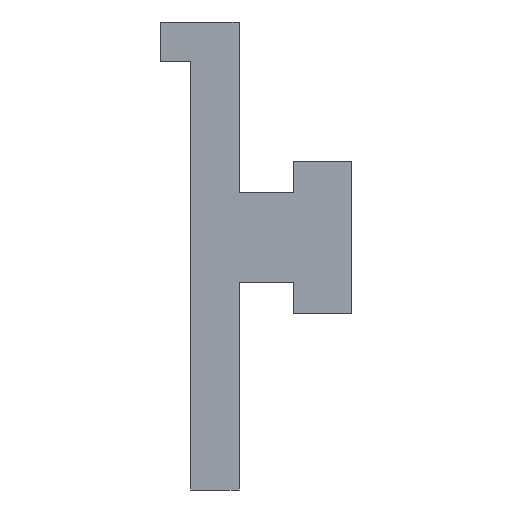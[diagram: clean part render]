
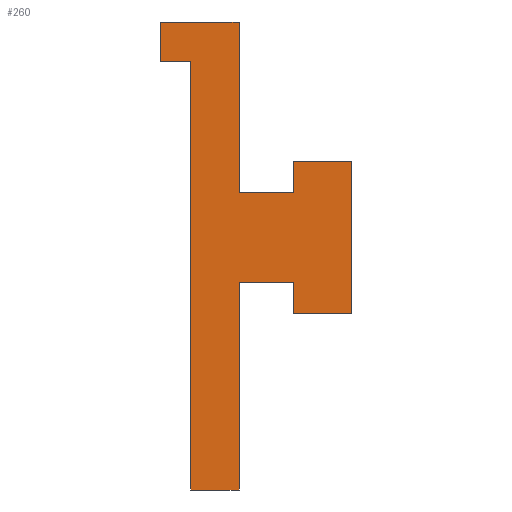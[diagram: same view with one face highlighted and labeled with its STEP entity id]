
A CAD part, left-side view. The second image highlights one B-rep face of the part: STEP entity #260.
In plain terms, the highlighted planar face has unit normal (-1, 0, 0).
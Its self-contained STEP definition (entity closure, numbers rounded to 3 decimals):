
#25 = AXIS2_PLACEMENT_3D ( 'NONE', #545, #307, #198 ) ;
#28 = CARTESIAN_POINT ( 'NONE',  ( 0., 7.332, 18.867 ) ) ;
#32 = CARTESIAN_POINT ( 'NONE',  ( 0., 4.632, 15.367 ) ) ;
#41 = ORIENTED_EDGE ( 'NONE', *, *, #463, .F. ) ;
#43 = ORIENTED_EDGE ( 'NONE', *, *, #590, .F. ) ;
#45 = EDGE_CURVE ( 'NONE', #342, #434, #737, .T. ) ;
#48 = VECTOR ( 'NONE', #393, 1000. ) ;
#63 = EDGE_CURVE ( 'NONE', #288, #749, #281, .T. ) ;
#66 = VERTEX_POINT ( 'NONE', #295 ) ;
#71 = ORIENTED_EDGE ( 'NONE', *, *, #272, .F. ) ;
#72 = LINE ( 'NONE', #251, #742 ) ;
#74 = ORIENTED_EDGE ( 'NONE', *, *, #221, .F. ) ;
#85 = CARTESIAN_POINT ( 'NONE',  ( 0., -9.668, 6.517 ) ) ;
#86 = CARTESIAN_POINT ( 'NONE',  ( 0., 0.332, 18.867 ) ) ;
#89 = EDGE_CURVE ( 'NONE', #373, #369, #517, .T. ) ;
#104 = ORIENTED_EDGE ( 'NONE', *, *, #719, .F. ) ;
#110 = VECTOR ( 'NONE', #327, 1000. ) ;
#113 = CARTESIAN_POINT ( 'NONE',  ( 0., 0.332, 3.767 ) ) ;
#115 = CARTESIAN_POINT ( 'NONE',  ( 0., -9.668, -6.983 ) ) ;
#117 = DIRECTION ( 'NONE',  ( 0., 1., 0. ) ) ;
#137 = PLANE ( 'NONE',  #25 ) ;
#140 = CARTESIAN_POINT ( 'NONE',  ( 0., 0.332, -4.233 ) ) ;
#155 = CARTESIAN_POINT ( 'NONE',  ( 0., -4.468, -4.233 ) ) ;
#157 = VERTEX_POINT ( 'NONE', #635 ) ;
#158 = CARTESIAN_POINT ( 'NONE',  ( 0., 7.332, 15.367 ) ) ;
#166 = CARTESIAN_POINT ( 'NONE',  ( 0., -9.668, 6.517 ) ) ;
#173 = VERTEX_POINT ( 'NONE', #113 ) ;
#179 = DIRECTION ( 'NONE',  ( 0., 1., 0. ) ) ;
#183 = EDGE_CURVE ( 'NONE', #487, #157, #415, .T. ) ;
#187 = DIRECTION ( 'NONE',  ( 0., -1., 0. ) ) ;
#192 = VERTEX_POINT ( 'NONE', #166 ) ;
#198 = DIRECTION ( 'NONE',  ( 0., 0., -1. ) ) ;
#204 = CARTESIAN_POINT ( 'NONE',  ( 0., 7.332, 15.367 ) ) ;
#211 = VECTOR ( 'NONE', #550, 1000. ) ;
#215 = ORIENTED_EDGE ( 'NONE', *, *, #183, .F. ) ;
#218 = CARTESIAN_POINT ( 'NONE',  ( 0., -4.468, 3.767 ) ) ;
#219 = ORIENTED_EDGE ( 'NONE', *, *, #417, .F. ) ;
#221 = EDGE_CURVE ( 'NONE', #336, #66, #246, .T. ) ;
#232 = CARTESIAN_POINT ( 'NONE',  ( 0., -9.668, -6.983 ) ) ;
#238 = DIRECTION ( 'NONE',  ( 0., 0., 1. ) ) ;
#246 = LINE ( 'NONE', #703, #421 ) ;
#248 = ORIENTED_EDGE ( 'NONE', *, *, #63, .F. ) ;
#251 = CARTESIAN_POINT ( 'NONE',  ( 0., 0.332, 3.767 ) ) ;
#255 = VECTOR ( 'NONE', #238, 1000. ) ;
#260 = ADVANCED_FACE ( 'NONE', ( #599 ), #137, .F. ) ;
#262 = CARTESIAN_POINT ( 'NONE',  ( 0., 0.332, -4.233 ) ) ;
#268 = VECTOR ( 'NONE', #362, 1000. ) ;
#272 = EDGE_CURVE ( 'NONE', #749, #487, #437, .T. ) ;
#275 = DIRECTION ( 'NONE',  ( 0., -1., 0. ) ) ;
#281 = LINE ( 'NONE', #629, #702 ) ;
#288 = VERTEX_POINT ( 'NONE', #155 ) ;
#290 = CARTESIAN_POINT ( 'NONE',  ( 0., 4.632, -22.633 ) ) ;
#295 = CARTESIAN_POINT ( 'NONE',  ( 0., 0.332, 18.867 ) ) ;
#303 = EDGE_CURVE ( 'NONE', #369, #336, #736, .T. ) ;
#307 = DIRECTION ( 'NONE',  ( 1., 0., 0. ) ) ;
#324 = DIRECTION ( 'NONE',  ( 0., 0., -1. ) ) ;
#327 = DIRECTION ( 'NONE',  ( 0., 0., 1. ) ) ;
#335 = EDGE_CURVE ( 'NONE', #66, #173, #616, .T. ) ;
#336 = VERTEX_POINT ( 'NONE', #28 ) ;
#342 = VERTEX_POINT ( 'NONE', #388 ) ;
#350 = CARTESIAN_POINT ( 'NONE',  ( 0., 0.332, -22.633 ) ) ;
#362 = DIRECTION ( 'NONE',  ( 0., 0., -1. ) ) ;
#369 = VERTEX_POINT ( 'NONE', #204 ) ;
#373 = VERTEX_POINT ( 'NONE', #32 ) ;
#388 = CARTESIAN_POINT ( 'NONE',  ( 0., -4.468, 3.767 ) ) ;
#393 = DIRECTION ( 'NONE',  ( 0., 0., 1. ) ) ;
#395 = VECTOR ( 'NONE', #117, 1000. ) ;
#397 = ORIENTED_EDGE ( 'NONE', *, *, #303, .F. ) ;
#415 = LINE ( 'NONE', #638, #395 ) ;
#417 = EDGE_CURVE ( 'NONE', #157, #373, #515, .T. ) ;
#421 = VECTOR ( 'NONE', #187, 1000. ) ;
#426 = EDGE_CURVE ( 'NONE', #573, #601, #755, .T. ) ;
#431 = CARTESIAN_POINT ( 'NONE',  ( 0., -4.468, 6.517 ) ) ;
#433 = VECTOR ( 'NONE', #324, 1000. ) ;
#434 = VERTEX_POINT ( 'NONE', #628 ) ;
#437 = LINE ( 'NONE', #140, #268 ) ;
#463 = EDGE_CURVE ( 'NONE', #192, #573, #722, .T. ) ;
#481 = DIRECTION ( 'NONE',  ( 0., -1., 0. ) ) ;
#487 = VERTEX_POINT ( 'NONE', #350 ) ;
#491 = LINE ( 'NONE', #431, #713 ) ;
#515 = LINE ( 'NONE', #290, #538 ) ;
#517 = LINE ( 'NONE', #527, #555 ) ;
#520 = DIRECTION ( 'NONE',  ( 0., 0., 1. ) ) ;
#527 = CARTESIAN_POINT ( 'NONE',  ( 0., 4.632, 15.367 ) ) ;
#538 = VECTOR ( 'NONE', #520, 1000. ) ;
#541 = ORIENTED_EDGE ( 'NONE', *, *, #426, .F. ) ;
#545 = CARTESIAN_POINT ( 'NONE',  ( 0., 0., 0. ) ) ;
#550 = DIRECTION ( 'NONE',  ( 0., 0., -1. ) ) ;
#555 = VECTOR ( 'NONE', #740, 1000. ) ;
#564 = ORIENTED_EDGE ( 'NONE', *, *, #89, .F. ) ;
#573 = VERTEX_POINT ( 'NONE', #115 ) ;
#580 = ORIENTED_EDGE ( 'NONE', *, *, #335, .F. ) ;
#590 = EDGE_CURVE ( 'NONE', #434, #192, #491, .T. ) ;
#599 = FACE_OUTER_BOUND ( 'NONE', #704, .T. ) ;
#601 = VERTEX_POINT ( 'NONE', #695 ) ;
#616 = LINE ( 'NONE', #86, #211 ) ;
#628 = CARTESIAN_POINT ( 'NONE',  ( 0., -4.468, 6.517 ) ) ;
#629 = CARTESIAN_POINT ( 'NONE',  ( 0., -4.468, -4.233 ) ) ;
#634 = DIRECTION ( 'NONE',  ( 0., 1., 0. ) ) ;
#635 = CARTESIAN_POINT ( 'NONE',  ( 0., 4.632, -22.633 ) ) ;
#638 = CARTESIAN_POINT ( 'NONE',  ( 0., 0.332, -22.633 ) ) ;
#639 = LINE ( 'NONE', #640, #255 ) ;
#640 = CARTESIAN_POINT ( 'NONE',  ( 0., -4.468, -6.983 ) ) ;
#649 = ORIENTED_EDGE ( 'NONE', *, *, #651, .F. ) ;
#651 = EDGE_CURVE ( 'NONE', #601, #288, #639, .T. ) ;
#662 = VECTOR ( 'NONE', #634, 1000. ) ;
#668 = ORIENTED_EDGE ( 'NONE', *, *, #45, .F. ) ;
#695 = CARTESIAN_POINT ( 'NONE',  ( 0., -4.468, -6.983 ) ) ;
#702 = VECTOR ( 'NONE', #179, 1000. ) ;
#703 = CARTESIAN_POINT ( 'NONE',  ( 0., 7.332, 18.867 ) ) ;
#704 = EDGE_LOOP ( 'NONE', ( #215, #71, #248, #649, #541, #41, #43, #668, #104, #580, #74, #397, #564, #219 ) ) ;
#713 = VECTOR ( 'NONE', #481, 1000. ) ;
#719 = EDGE_CURVE ( 'NONE', #173, #342, #72, .T. ) ;
#722 = LINE ( 'NONE', #85, #433 ) ;
#736 = LINE ( 'NONE', #158, #110 ) ;
#737 = LINE ( 'NONE', #218, #48 ) ;
#740 = DIRECTION ( 'NONE',  ( 0., 1., 0. ) ) ;
#742 = VECTOR ( 'NONE', #275, 1000. ) ;
#749 = VERTEX_POINT ( 'NONE', #262 ) ;
#755 = LINE ( 'NONE', #232, #662 ) ;
